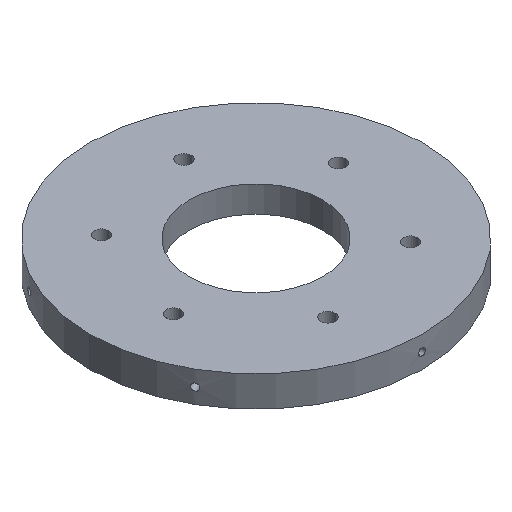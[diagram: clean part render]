
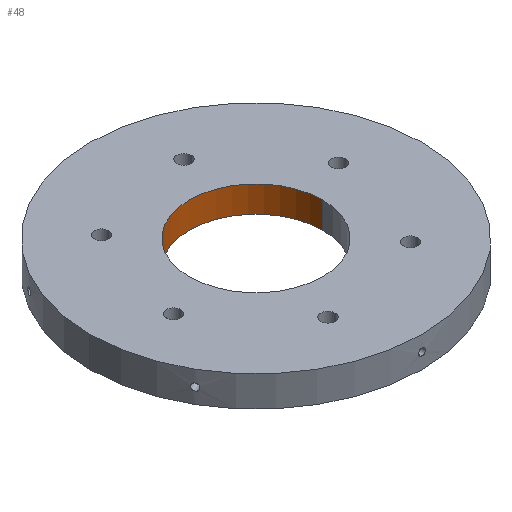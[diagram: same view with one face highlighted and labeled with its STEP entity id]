
A CAD part, isometric view. The second image highlights one B-rep face of the part: STEP entity #48.
In plain terms, the highlighted cylindrical face has radius 15.25 mm (diameter 30.5 mm), a partial arc.
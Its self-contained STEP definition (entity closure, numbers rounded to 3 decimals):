
#7 = CARTESIAN_POINT ( 'NONE',  ( 15.25, 0., 7. ) ) ;
#29 = AXIS2_PLACEMENT_3D ( 'NONE', #896, #884, #314 ) ;
#48 = ADVANCED_FACE ( 'NONE', ( #429 ), #1006, .F. ) ;
#95 = AXIS2_PLACEMENT_3D ( 'NONE', #713, #1165, #828 ) ;
#103 = ORIENTED_EDGE ( 'NONE', *, *, #961, .F. ) ;
#181 = CARTESIAN_POINT ( 'NONE',  ( 15.25, 0., 1. ) ) ;
#187 = VERTEX_POINT ( 'NONE', #181 ) ;
#293 = CARTESIAN_POINT ( 'NONE',  ( -15.25, 0., 7. ) ) ;
#314 = DIRECTION ( 'NONE',  ( 1., 0., 0. ) ) ;
#326 = CARTESIAN_POINT ( 'NONE',  ( 0., 0., 7. ) ) ;
#341 = CARTESIAN_POINT ( 'NONE',  ( -15.25, 0., 0. ) ) ;
#342 = ORIENTED_EDGE ( 'NONE', *, *, #519, .T. ) ;
#403 = AXIS2_PLACEMENT_3D ( 'NONE', #326, #787, #1239 ) ;
#429 = FACE_OUTER_BOUND ( 'NONE', #844, .T. ) ;
#468 = LINE ( 'NONE', #492, #506 ) ;
#492 = CARTESIAN_POINT ( 'NONE',  ( 15.25, 0., 0. ) ) ;
#506 = VECTOR ( 'NONE', #1396, 1000. ) ;
#519 = EDGE_CURVE ( 'NONE', #187, #579, #468, .T. ) ;
#545 = EDGE_CURVE ( 'NONE', #187, #664, #795, .T. ) ;
#579 = VERTEX_POINT ( 'NONE', #7 ) ;
#630 = ORIENTED_EDGE ( 'NONE', *, *, #545, .F. ) ;
#664 = VERTEX_POINT ( 'NONE', #1409 ) ;
#703 = DIRECTION ( 'NONE',  ( 0., 0., 1. ) ) ;
#713 = CARTESIAN_POINT ( 'NONE',  ( 0., 0., 1. ) ) ;
#787 = DIRECTION ( 'NONE',  ( 0., 0., 1. ) ) ;
#789 = CIRCLE ( 'NONE', #403, 15.25 ) ;
#795 = CIRCLE ( 'NONE', #95, 15.25 ) ;
#828 = DIRECTION ( 'NONE',  ( -1., 0., 0. ) ) ;
#844 = EDGE_LOOP ( 'NONE', ( #103, #630, #342, #1106 ) ) ;
#874 = EDGE_CURVE ( 'NONE', #579, #1216, #789, .T. ) ;
#884 = DIRECTION ( 'NONE',  ( 0., 0., 1. ) ) ;
#896 = CARTESIAN_POINT ( 'NONE',  ( 0., 0., 0. ) ) ;
#911 = LINE ( 'NONE', #341, #1101 ) ;
#961 = EDGE_CURVE ( 'NONE', #664, #1216, #911, .T. ) ;
#1006 = CYLINDRICAL_SURFACE ( 'NONE', #29, 15.25 ) ;
#1101 = VECTOR ( 'NONE', #703, 1000. ) ;
#1106 = ORIENTED_EDGE ( 'NONE', *, *, #874, .T. ) ;
#1165 = DIRECTION ( 'NONE',  ( 0., 0., 1. ) ) ;
#1216 = VERTEX_POINT ( 'NONE', #293 ) ;
#1239 = DIRECTION ( 'NONE',  ( 1., 0., 0. ) ) ;
#1396 = DIRECTION ( 'NONE',  ( 0., 0., 1. ) ) ;
#1409 = CARTESIAN_POINT ( 'NONE',  ( -15.25, 0., 1. ) ) ;
